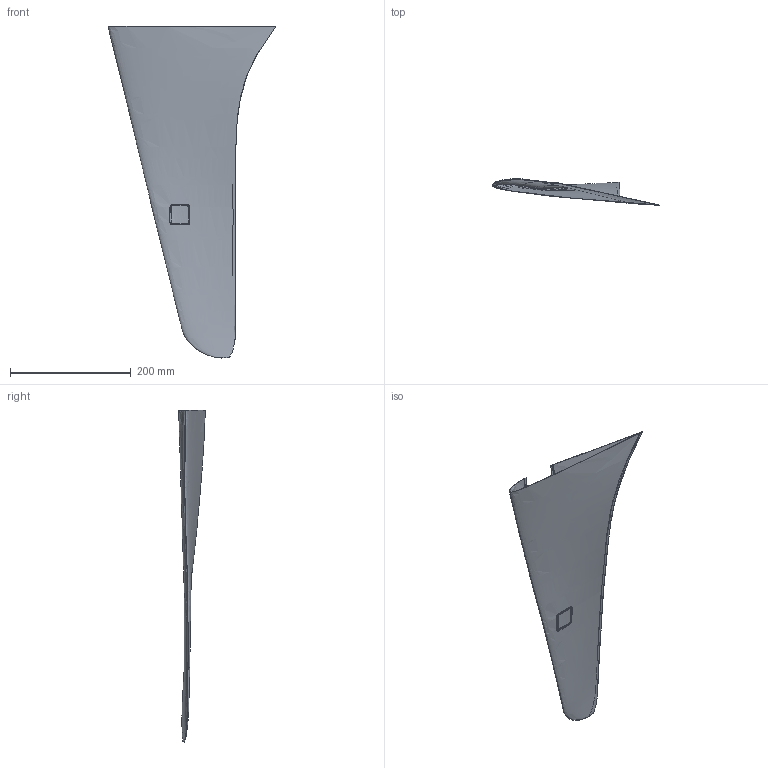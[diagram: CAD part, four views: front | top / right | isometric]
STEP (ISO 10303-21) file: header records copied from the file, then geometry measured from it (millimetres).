
FILE_DESCRIPTION (( 'STEP AP203' ), '1' );
FILE_NAME ('fvt- vDirk v5 3D-print (skin).STEP', '2025-11-30T10:42:12', ( '' ), ( '' ), 'SwSTEP 2.0', 'SolidWorks 2024', '' );
FILE_SCHEMA (( 'CONFIG_CONTROL_DESIGN' ));
Products named in the file (1): fvt- vDirk v5 3D-print (skin)
Bounding box: 278.1 x 44.08 x 549.69 mm (x, y, z)
Surface area: 248262.5 mm2 (no closed solid volume)
Topology: 0 solids, 1 shells, 59 faces, 168 edges, 112 vertices
Faces by surface type: bspline 57, plane 2
Entity records: 44219 total; most frequent: CARTESIAN_POINT 43075, ORIENTED_EDGE 336, EDGE_CURVE 168, B_SPLINE_CURVE_WITH_KNOTS 149, VERTEX_POINT 112, EDGE_LOOP 64, ADVANCED_FACE 60, FACE_OUTER_BOUND 60
